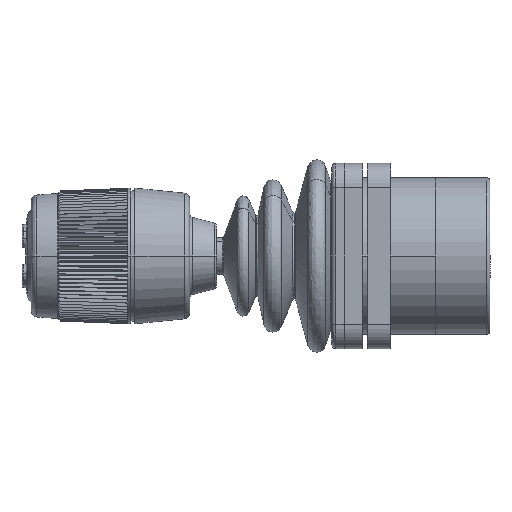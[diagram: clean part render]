
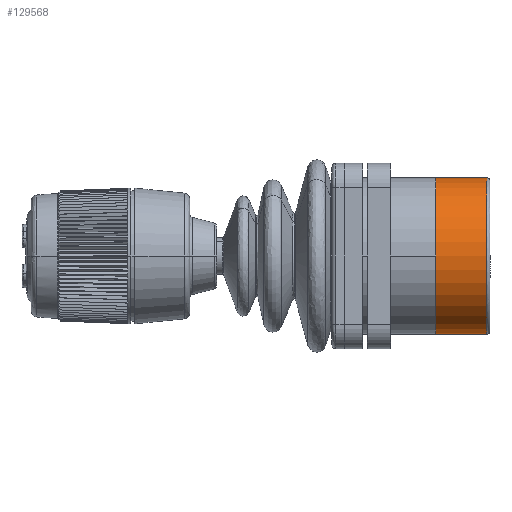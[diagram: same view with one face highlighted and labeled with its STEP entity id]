
A CAD part, left-side view. The second image highlights one B-rep face of the part: STEP entity #129568.
In plain terms, the highlighted face is a revolution surface.
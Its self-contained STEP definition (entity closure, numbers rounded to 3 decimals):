
#129568 = ADVANCED_FACE('',(#129569),#129605,.T.);
#129569 = FACE_BOUND('',#129570,.T.);
#129570 = EDGE_LOOP('',(#129571,#129582,#129590,#129599));
#129571 = ORIENTED_EDGE('',*,*,#129572,.F.);
#129572 = EDGE_CURVE('',#129573,#129575,#129577,.T.);
#129573 = VERTEX_POINT('',#129574);
#129574 = CARTESIAN_POINT('',(0.,0.794,-20.32));
#129575 = VERTEX_POINT('',#129576);
#129576 = CARTESIAN_POINT('',(0.,0.794,20.32));
#129577 = CIRCLE('',#129578,20.32);
#129578 = AXIS2_PLACEMENT_3D('',#129579,#129580,#129581);
#129579 = CARTESIAN_POINT('',(0.,0.794,0.));
#129580 = DIRECTION('',(0.,1.,0.));
#129581 = DIRECTION('',(0.,0.,-1.));
#129582 = ORIENTED_EDGE('',*,*,#129583,.F.);
#129583 = EDGE_CURVE('',#129584,#129573,#129586,.T.);
#129584 = VERTEX_POINT('',#129585);
#129585 = CARTESIAN_POINT('',(0.,14.097,-20.32));
#129586 = LINE('',#129587,#129588);
#129587 = CARTESIAN_POINT('',(0.,14.097,-20.32));
#129588 = VECTOR('',#129589,1.);
#129589 = DIRECTION('',(0.,-1.,0.));
#129590 = ORIENTED_EDGE('',*,*,#129591,.F.);
#129591 = EDGE_CURVE('',#129592,#129584,#129594,.T.);
#129592 = VERTEX_POINT('',#129593);
#129593 = CARTESIAN_POINT('',(0.,14.097,20.32));
#129594 = CIRCLE('',#129595,20.32);
#129595 = AXIS2_PLACEMENT_3D('',#129596,#129597,#129598);
#129596 = CARTESIAN_POINT('',(0.,14.097,0.));
#129597 = DIRECTION('',(0.,-1.,0.));
#129598 = DIRECTION('',(0.,0.,1.));
#129599 = ORIENTED_EDGE('',*,*,#129600,.F.);
#129600 = EDGE_CURVE('',#129575,#129592,#129601,.T.);
#129601 = LINE('',#129602,#129603);
#129602 = CARTESIAN_POINT('',(0.,0.794,20.32));
#129603 = VECTOR('',#129604,1.);
#129604 = DIRECTION('',(0.,1.,0.));
#129605 = SURFACE_OF_REVOLUTION('',#129606,#129610);
#129606 = LINE('',#129607,#129608);
#129607 = CARTESIAN_POINT('',(0.,14.097,-20.32));
#129608 = VECTOR('',#129609,1.);
#129609 = DIRECTION('',(0.,-1.,0.));
#129610 = AXIS1_PLACEMENT('',#129611,#129612);
#129611 = CARTESIAN_POINT('',(0.,15.24,0.));
#129612 = DIRECTION('',(0.,1.,0.));
